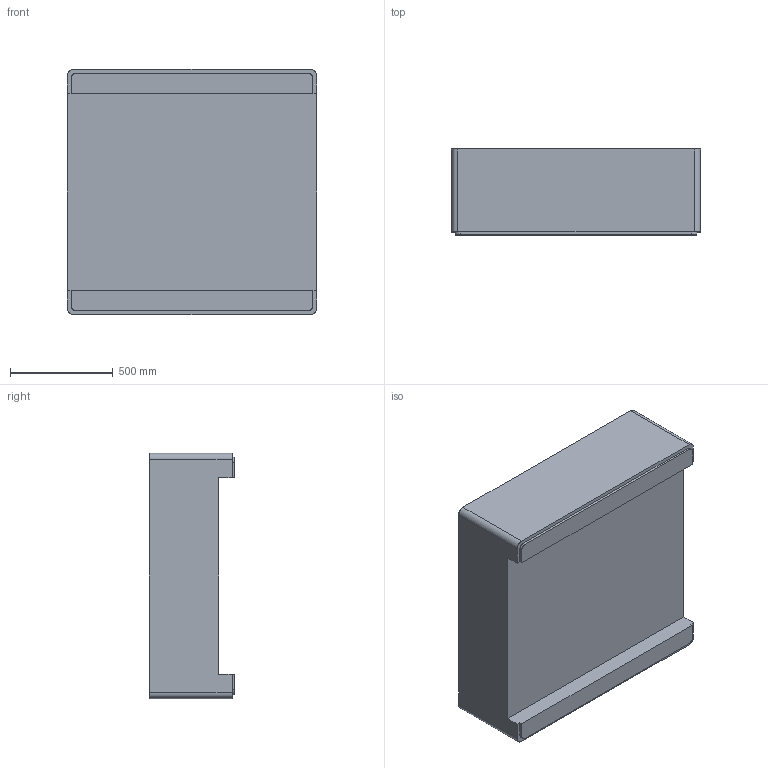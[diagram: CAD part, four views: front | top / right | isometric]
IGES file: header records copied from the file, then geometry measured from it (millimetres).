
Start section: SolidWorks IGES file using analytic representation for surfaces
Global section: file name: C:\Users\bconder\Documents\Production Models\MacroBins\14FV\14FV Block Model.IGS; native system: SolidWorks 2013; preprocessor: SolidWorks 2013; author: bconder; date: 130603.103918; units: inch
Bounding box: 1212.86 x 416.71 x 1193.8 mm (x, y, z)
Surface area: 6230520.5 mm2 (no closed solid volume)
Topology: 0 solids, 0 shells, 63 faces, 700 edges, 700 vertices
Faces by surface type: revolution 32, bspline 31
